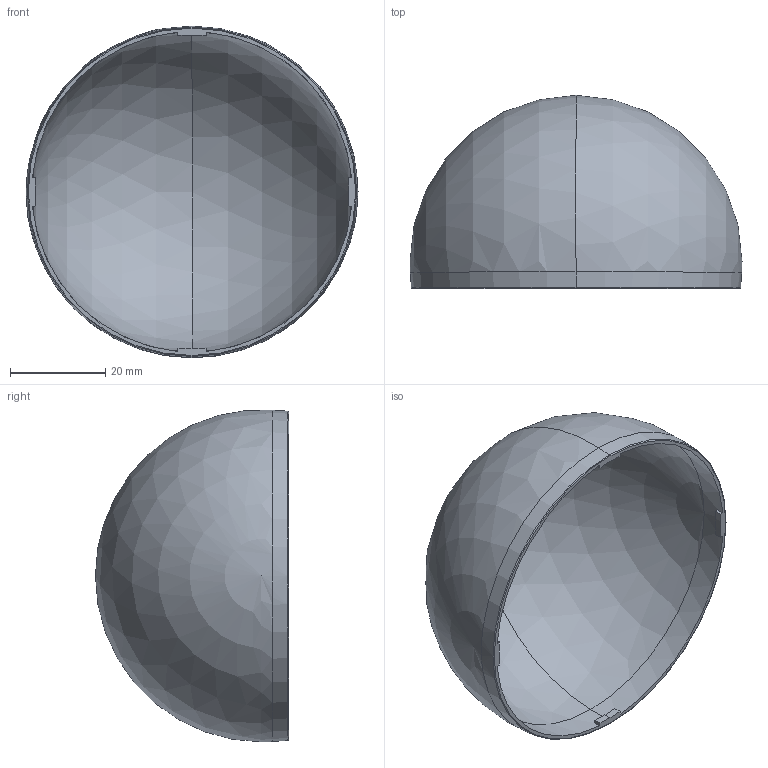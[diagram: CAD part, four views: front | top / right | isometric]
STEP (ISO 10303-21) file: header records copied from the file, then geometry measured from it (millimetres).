
FILE_DESCRIPTION(('FreeCAD Model'),'2;1');
FILE_NAME('Open CASCADE Shape Model','2024-08-30T09:37:04',( 'Lukas Balthasar Pank'),('Astera LED Technology GmbH'), 'Open CASCADE STEP processor 7.6','FreeCAD','Unknown');
FILE_SCHEMA(('AUTOMOTIVE_DESIGN { 1 0 10303 214 1 1 1 1 }'));
Length unit declared in the file: millimetre
Products named in the file (1): FP7-LDF_LunaDiffusor_3D-STEP
Bounding box: 69.8 x 40.6 x 69.72 mm (x, y, z)
Volume: 10232.8 mm3; surface area: 17464.6 mm2
Topology: 1 solids, 1 shells, 28 faces, 80 edges, 51 vertices
Faces by surface type: plane 13, cylinder 7, sphere 4, torus 2, cone 2
Entity records: 952 total; most frequent: CARTESIAN_POINT 170, DIRECTION 169, ORIENTED_EDGE 152, EDGE_CURVE 76, AXIS2_PLACEMENT_3D 66, VERTEX_POINT 51, CIRCLE 37, LINE 37
